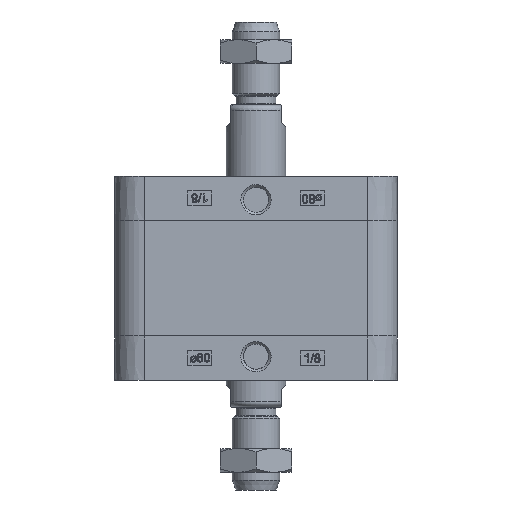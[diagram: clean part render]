
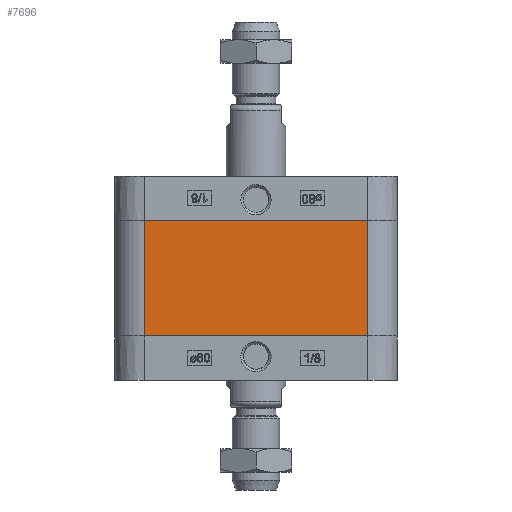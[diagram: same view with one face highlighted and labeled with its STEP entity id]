
A CAD part, left-side view. The second image highlights one B-rep face of the part: STEP entity #7696.
In plain terms, the highlighted planar face has unit normal (-1, 0, 0).
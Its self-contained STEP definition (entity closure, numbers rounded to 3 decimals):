
#806=ORIENTED_EDGE('',*,*,#3098,.T.);
#807=ORIENTED_EDGE('',*,*,#3097,.F.);
#808=ORIENTED_EDGE('',*,*,#3099,.F.);
#809=ORIENTED_EDGE('',*,*,#3100,.T.);
#3097=EDGE_CURVE('',#4243,#4240,#5032,.T.);
#3098=EDGE_CURVE('',#4244,#4240,#5033,.T.);
#3099=EDGE_CURVE('',#4245,#4243,#5034,.T.);
#3100=EDGE_CURVE('',#4245,#4244,#5035,.T.);
#4240=VERTEX_POINT('',#13350);
#4243=VERTEX_POINT('',#13355);
#4244=VERTEX_POINT('',#13359);
#4245=VERTEX_POINT('',#13361);
#5032=LINE('',#13356,#5685);
#5033=LINE('',#13358,#5686);
#5034=LINE('',#13360,#5687);
#5035=LINE('',#13362,#5688);
#5685=VECTOR('',#11216,1000.);
#5686=VECTOR('',#11219,1000.);
#5687=VECTOR('',#11220,1000.);
#5688=VECTOR('',#11221,1000.);
#6335=EDGE_LOOP('',(#806,#807,#808,#809));
#6910=FACE_BOUND('',#6335,.T.);
#7484=PLANE('',#10464);
#7696=ADVANCED_FACE('',(#6910),#7484,.T.);
#10464=AXIS2_PLACEMENT_3D('',#13357,#11217,#11218);
#11216=DIRECTION('',(0.,0.,1.));
#11217=DIRECTION('',(-1.,0.,0.));
#11218=DIRECTION('',(0.,0.,1.));
#11219=DIRECTION('',(0.,1.,0.));
#11220=DIRECTION('',(0.,1.,0.));
#11221=DIRECTION('',(0.,0.,1.));
#13350=CARTESIAN_POINT('',(-47.75,37.75,29.));
#13355=CARTESIAN_POINT('',(-47.75,37.75,-10.));
#13356=CARTESIAN_POINT('',(-47.75,37.75,0.));
#13357=CARTESIAN_POINT('',(-47.75,-37.75,0.));
#13358=CARTESIAN_POINT('',(-47.75,-37.75,29.));
#13359=CARTESIAN_POINT('',(-47.75,-37.75,29.));
#13360=CARTESIAN_POINT('',(-47.75,-37.75,-10.));
#13361=CARTESIAN_POINT('',(-47.75,-37.75,-10.));
#13362=CARTESIAN_POINT('',(-47.75,-37.75,0.));
